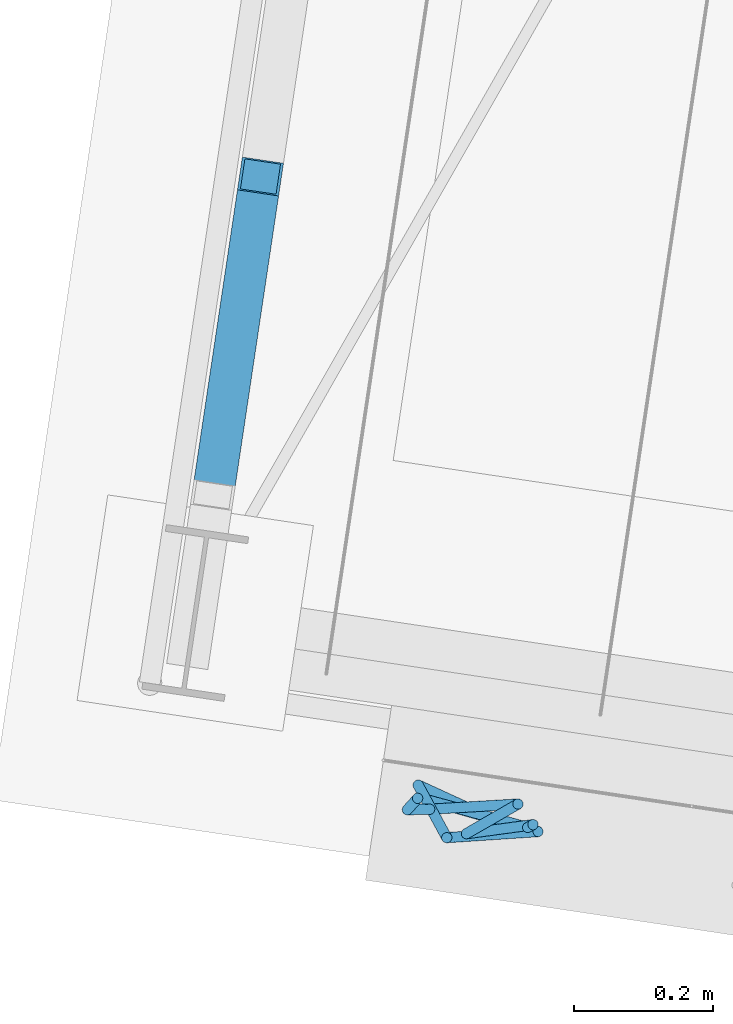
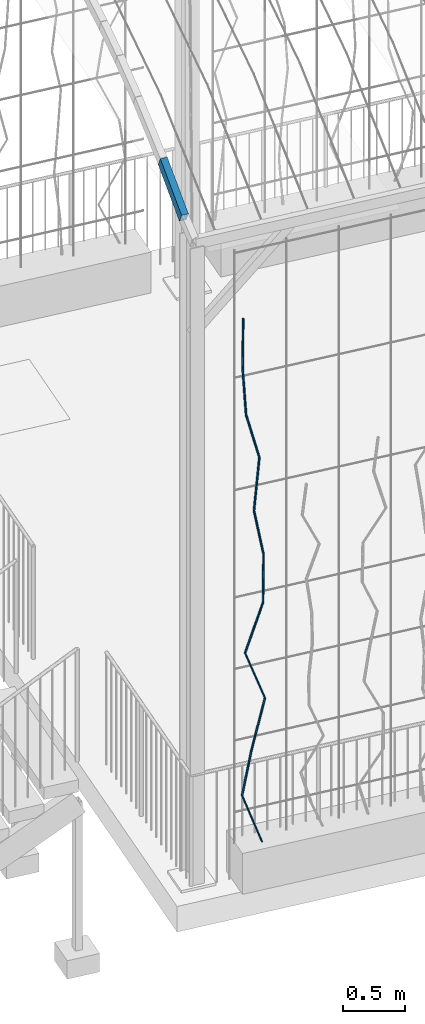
# One storey, part 105 of 142: 12 members, 2 elements without a shape of their own.
"""IFC4 building model written with IfcOpenShell, lengths in metres."""

from ifc_helpers import new_model, si_unit, direction, frame, origin_with_axes, place, context, subcontext, project, spatial, hollow_rectangle, circle, extrude, material, material_profile, profile_set, profile_usage, type_object, element, aggregate, save


model = new_model("IFC4")

# Units and contexts
model_context = context("Model", 3, precision=1e-05, world=origin_with_axes(), true_north=direction((0.0, 1.0)))
body_context = subcontext(model_context, "Body", "Model", "MODEL_VIEW")
ifc_project = project(units=[si_unit("LENGTHUNIT", "METRE"), si_unit("AREAUNIT", "SQUARE_METRE"), si_unit("VOLUMEUNIT", "CUBIC_METRE")], contexts=[model_context])

# Site, building, storey
site_placement = place(None, origin_with_axes())
site = spatial("IfcSite", under=ifc_project, at=site_placement, Name="Lares · Rua das Mercês · artigo 4771")
building_placement = place(site_placement, frame((15.0, 9.7, 14.65), z_axis=(0.0, 0.0, 1.0), x_axis=(0.989015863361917, -0.147809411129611, 0.0)))
building = spatial("IfcBuilding", under=site, at=building_placement, Name="Casa Sobreposta")
storey_placement = place(building_placement, origin_with_axes())
storey = spatial("IfcBuildingStorey", under=building, at=storey_placement, Name="00 · Habitação e estacionamento", Elevation=14.65)

# Assembly, member
assembly_1_placement = place(storey_placement, origin_with_axes())
assembly_1 = element("IfcElementAssembly", 1, at=assembly_1_placement, inside=storey, Name="Pérgola · prolongamento da estufa 6 m", ObjectType="PERGOLA_GREENHOUSE_EXTENSION", PredefinedType="USERDEFINED")
ifc_material_1 = material(Name="Aço pintado / Stahl lackiert", Category="steel")
ifc_material_profile_1 = material_profile(ifc_material_1, hollow_rectangle(XDim=0.06, YDim=0.1, WallThickness=0.004))
ifc_profile_set_1 = profile_set([ifc_material_profile_1], Name="RHS100x60x4")
ifc_profile_usage_1 = profile_usage(ifc_profile_set_1)
member_type_1 = type_object("IfcMemberType", Name="RHS100x60x4 / steel", PredefinedType="NOTDEFINED", material=ifc_profile_set_1)
member_1_placement = place(assembly_1_placement, frame((-6.0, -1.26765509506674, 6.32392631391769), z_axis=(0.0, 0.878851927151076, 0.477094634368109), x_axis=(1.0, 0.0, 0.0)))
member_1 = element("IfcMember", 2, at=member_1_placement, type_object=member_type_1, material=ifc_profile_usage_1, Name="Pérgola · arco contínuo com a estufa", context=body_context, shape_type="SweptSolid", body=[
    extrude(hollow_rectangle(XDim=0.06, YDim=0.1, WallThickness=0.004), origin_with_axes(), (0.0, 0.0, 1.0), 0.52863528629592),
])
aggregate(assembly_1, [member_1])

# Assembly, members
assembly_2_placement = place(storey_placement, origin_with_axes())
assembly_2 = element("IfcElementAssembly", 3, at=assembly_2_placement, inside=storey, Name="Fachada sul e pátio · estrutura e trepadeiras", ObjectType="LIVING_SHADE_TRELLIS", PredefinedType="USERDEFINED")
ifc_material_2 = material(Name="Ramos de trepadeiras", Category="wood")
ifc_material_profile_2 = material_profile(ifc_material_2, circle(Radius=0.0075))
ifc_profile_set_2 = profile_set([ifc_material_profile_2], Name="D0.015")
ifc_profile_usage_2 = profile_usage(ifc_profile_set_2)
member_type_2 = type_object("IfcMemberType", Name="D0.015 / vine_wood", PredefinedType="NOTDEFINED", material=ifc_profile_set_2)
member_2_placement = place(assembly_2_placement, frame((-5.48911948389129, -1.68313375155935, 0.35), z_axis=(-0.315042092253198, 0.0911891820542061, 0.944686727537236), x_axis=(0.278037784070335, 0.960570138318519, 0.0)))
member_2 = element("IfcMember", 4, at=member_2_placement, type_object=member_type_2, material=ifc_profile_usage_2, Name="Trepadeiras · ramo", context=body_context, shape_type="SweptSolid", body=[
    extrude(circle(Radius=0.0075), origin_with_axes(), (0.0, 0.0, 1.0), 0.495129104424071),
])
ifc_profile_usage_3 = profile_usage(ifc_profile_set_2)
member_3_placement = place(assembly_2_placement, frame((-5.64510599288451, -1.63798333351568, 0.817741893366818), z_axis=(0.109502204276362, -0.145033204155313, 0.983348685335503), x_axis=(-0.798074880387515, -0.602558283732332, 0.0)))
member_3 = element("IfcMember", 5, at=member_3_placement, type_object=member_type_2, material=ifc_profile_usage_3, Name="Trepadeiras · ramo", context=body_context, shape_type="SweptSolid", body=[
    extrude(circle(Radius=0.0075), origin_with_axes(), (0.0, 0.0, 1.0), 0.475662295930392),
])
ifc_profile_usage_4 = profile_usage(ifc_profile_set_2)
member_4_placement = place(assembly_2_placement, frame((-5.59301992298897, -1.70697016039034, 1.28548378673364), z_axis=(0.265195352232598, 0.0579298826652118, 0.962452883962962), x_axis=(0.213409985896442, -0.976962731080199, 0.0)))
member_4 = element("IfcMember", 6, at=member_4_placement, type_object=member_type_2, material=ifc_profile_usage_4, Name="Trepadeiras · ramo", context=body_context, shape_type="SweptSolid", body=[
    extrude(circle(Radius=0.0075), origin_with_axes(), (0.0, 0.0, 1.0), 0.485989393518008),
])
ifc_profile_usage_5 = profile_usage(ifc_profile_set_2)
member_5_placement = place(assembly_2_placement, frame((-5.46413779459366, -1.67881685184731, 1.75322568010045), z_axis=(-0.32848864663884, 0.0430845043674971, 0.943524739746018), x_axis=(0.130045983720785, 0.991507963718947, 0.0)))
member_5 = element("IfcMember", 7, at=member_5_placement, type_object=member_type_2, material=ifc_profile_usage_5, Name="Trepadeiras · ramo", context=body_context, shape_type="SweptSolid", body=[
    extrude(circle(Radius=0.0075), origin_with_axes(), (0.0, 0.0, 1.0), 0.495738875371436),
])
ifc_profile_usage_6 = profile_usage(ifc_profile_set_2)
member_6_placement = place(assembly_2_placement, frame((-5.62698238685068, -1.65745818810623, 2.22096757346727), z_axis=(0.300174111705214, -0.0360648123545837, 0.953202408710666), x_axis=(-0.119288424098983, -0.992859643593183, 0.0)))
member_6 = element("IfcMember", 8, at=member_6_placement, type_object=member_type_2, material=ifc_profile_usage_6, Name="Trepadeiras · ramo", context=body_context, shape_type="SweptSolid", body=[
    extrude(circle(Radius=0.0075), origin_with_axes(), (0.0, 0.0, 1.0), 0.490705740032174),
])
ifc_profile_usage_7 = profile_usage(ifc_profile_set_2)
member_7_placement = place(assembly_2_placement, frame((-5.47968522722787, -1.6751553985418, 2.68870946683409), z_axis=(0.0147543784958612, 0.0109734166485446, 0.999830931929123), x_axis=(0.999891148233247, -0.000161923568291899, -0.0147534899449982)))
member_7 = element("IfcMember", 9, at=member_7_placement, type_object=member_type_2, material=ifc_profile_usage_7, Name="Trepadeiras · ramo", context=body_context, shape_type="SweptSolid", body=[
    extrude(circle(Radius=0.0075), origin_with_axes(), (0.0, 0.0, 1.0), 0.467820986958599),
])
ifc_profile_usage_8 = profile_usage(ifc_profile_set_2)
member_8_placement = place(assembly_2_placement, frame((-5.47278281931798, -1.67002180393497, 3.15645136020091), z_axis=(-0.19496267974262, -0.0566235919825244, 0.979174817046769), x_axis=(-0.278907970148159, 0.960317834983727, 0.0)))
member_8 = element("IfcMember", 10, at=member_8_placement, type_object=member_type_2, material=ifc_profile_usage_8, Name="Trepadeiras · ramo", context=body_context, shape_type="SweptSolid", body=[
    extrude(circle(Radius=0.0075), origin_with_axes(), (0.0, 0.0, 1.0), 0.477689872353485),
])
ifc_profile_usage_9 = profile_usage(ifc_profile_set_2)
member_9_placement = place(assembly_2_placement, frame((-5.56591451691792, -1.6970703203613, 3.62419325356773), z_axis=(0.141678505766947, 0.112006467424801, 0.983555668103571), x_axis=(0.620172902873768, -0.784465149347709, 0.0)))
member_9 = element("IfcMember", 11, at=member_9_placement, type_object=member_type_2, material=ifc_profile_usage_9, Name="Trepadeiras · ramo", context=body_context, shape_type="SweptSolid", body=[
    extrude(circle(Radius=0.0075), origin_with_axes(), (0.0, 0.0, 1.0), 0.475562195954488),
])
ifc_profile_usage_10 = profile_usage(ifc_profile_set_2)
member_10_placement = place(assembly_2_placement, frame((-5.49853757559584, -1.64380427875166, 4.09193514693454), z_axis=(-0.257789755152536, -0.0541962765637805, 0.964679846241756), x_axis=(-0.205736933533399, 0.97860733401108, 0.0)))
member_10 = element("IfcMember", 12, at=member_10_placement, type_object=member_type_2, material=ifc_profile_usage_10, Name="Trepadeiras · ramo", context=body_context, shape_type="SweptSolid", body=[
    extrude(circle(Radius=0.0075), origin_with_axes(), (0.0, 0.0, 1.0), 0.484867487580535),
])
ifc_profile_usage_11 = profile_usage(ifc_profile_set_2)
member_11_placement = place(assembly_2_placement, frame((-5.62353144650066, -1.67008229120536, 4.55967704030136), z_axis=(-0.0676309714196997, -0.0113503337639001, 0.997645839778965), x_axis=(-0.165512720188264, 0.986207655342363, 0.0)))
member_11 = element("IfcMember", 13, at=member_11_placement, type_object=member_type_2, material=ifc_profile_usage_11, Name="Trepadeiras · ramo", context=body_context, shape_type="SweptSolid", body=[
    extrude(circle(Radius=0.0075), origin_with_axes(), (0.0, 0.0, 1.0), 0.468845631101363),
])
ifc_profile_usage_12 = profile_usage(ifc_profile_set_2)
member_12_placement = place(assembly_2_placement, frame((-5.65523993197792, -1.67540384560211, 5.02741893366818), z_axis=(0.0261045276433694, 0.0393084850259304, 0.99888607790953), x_axis=(0.833038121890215, -0.55321558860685, 0.0)))
member_12 = element("IfcMember", 14, at=member_12_placement, type_object=member_type_2, material=ifc_profile_usage_12, Name="Trepadeiras · ramo", context=body_context, shape_type="SweptSolid", body=[
    extrude(circle(Radius=0.0075), origin_with_axes(), (0.0, 0.0, 1.0), 0.468263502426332),
])
aggregate(assembly_2, [member_2, member_3, member_4, member_5, member_6, member_7, member_8, member_9, member_10, member_11, member_12])

save(model, "model.ifc")
